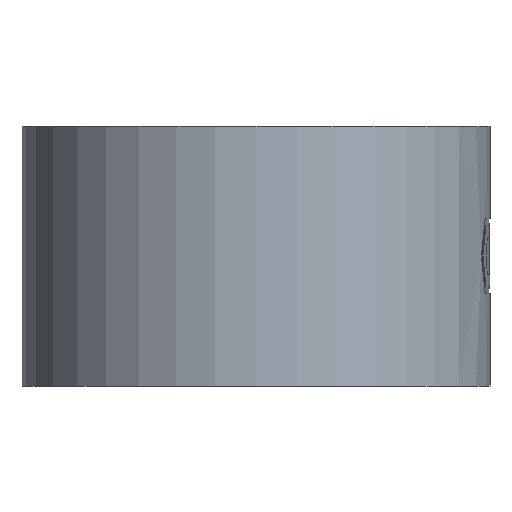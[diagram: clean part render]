
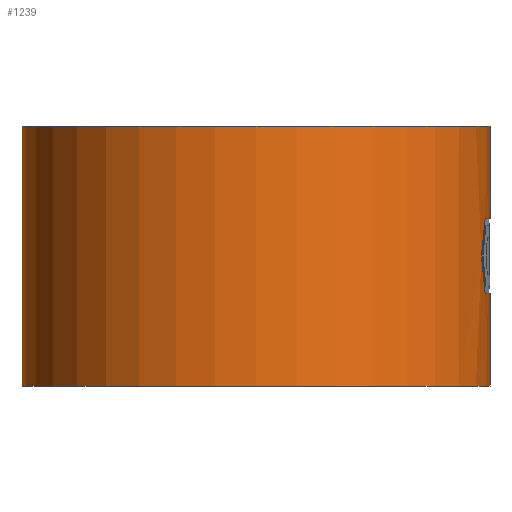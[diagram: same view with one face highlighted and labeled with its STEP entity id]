
A CAD part, front view. The second image highlights one B-rep face of the part: STEP entity #1239.
In plain terms, the highlighted cylindrical face has radius 7.65 mm (diameter 15.3 mm), a partial arc.
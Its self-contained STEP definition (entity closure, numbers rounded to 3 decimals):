
#160 = CIRCLE ( 'NONE', #347, 7.65 ) ;
#162 = DIRECTION ( 'NONE',  ( 1., 0., 0. ) ) ;
#163 = DIRECTION ( 'NONE',  ( 0., 0., 1. ) ) ;
#164 = CARTESIAN_POINT ( 'NONE',  ( 0., 0., 0. ) ) ;
#165 = AXIS2_PLACEMENT_3D ( 'NONE', #164, #163, #162 ) ;
#166 = CIRCLE ( 'NONE', #165, 7.65 ) ;
#188 = CARTESIAN_POINT ( 'NONE',  ( 7.65, 0., 5.465 ) ) ;
#189 = DIRECTION ( 'NONE',  ( 0., 0., -1. ) ) ;
#190 = VECTOR ( 'NONE', #189, 1000. ) ;
#191 = CARTESIAN_POINT ( 'NONE',  ( 7.65, 0., 8.5 ) ) ;
#192 = LINE ( 'NONE', #191, #190 ) ;
#193 = CARTESIAN_POINT ( 'NONE',  ( -7.65, 0., 8.5 ) ) ;
#194 = CARTESIAN_POINT ( 'NONE',  ( 7.65, 0., 8.5 ) ) ;
#233 = DIRECTION ( 'NONE',  ( 0., 0., -1. ) ) ;
#234 = VECTOR ( 'NONE', #233, 1000. ) ;
#235 = CARTESIAN_POINT ( 'NONE',  ( -7.65, 0., 8.5 ) ) ;
#236 = LINE ( 'NONE', #235, #234 ) ;
#237 = CARTESIAN_POINT ( 'NONE',  ( -7.65, 0., 0. ) ) ;
#243 = CARTESIAN_POINT ( 'NONE',  ( 7.65, 0., 0. ) ) ;
#244 = DIRECTION ( 'NONE',  ( 0., 0., -1. ) ) ;
#245 = VECTOR ( 'NONE', #244, 1000. ) ;
#246 = CARTESIAN_POINT ( 'NONE',  ( 7.65, 0., 8.5 ) ) ;
#247 = LINE ( 'NONE', #246, #245 ) ;
#248 = CARTESIAN_POINT ( 'NONE',  ( 7.65, 0., 3.035 ) ) ;
#334 = DIRECTION ( 'NONE',  ( 1., 0., 0. ) ) ;
#335 = DIRECTION ( 'NONE',  ( 0., 0., 1. ) ) ;
#336 = AXIS2_PLACEMENT_3D ( 'NONE', #343, #335, #334 ) ;
#337 = CIRCLE ( 'NONE', #336, 7.65 ) ;
#338 = DIRECTION ( 'NONE',  ( -1., 0., 0. ) ) ;
#339 = DIRECTION ( 'NONE',  ( 0., 0., -1. ) ) ;
#340 = CARTESIAN_POINT ( 'NONE',  ( 0., 0., 8.5 ) ) ;
#341 = AXIS2_PLACEMENT_3D ( 'NONE', #340, #339, #338 ) ;
#342 = CYLINDRICAL_SURFACE ( 'NONE', #341, 7.65 ) ;
#343 = CARTESIAN_POINT ( 'NONE',  ( 0., 0., 8.5 ) ) ;
#347 = AXIS2_PLACEMENT_3D ( 'NONE', #398, #397, #396 ) ;
#348 = CARTESIAN_POINT ( 'NONE',  ( 7.37, -2.052, 4.25 ) ) ;
#349 = B_SPLINE_CURVE_WITH_KNOTS ( 'NONE', 3,
 ( #387, #386, #385, #384 ),
 .UNSPECIFIED., .F., .F.,
 ( 4, 4 ),
 ( 0., 1. ),
 .UNSPECIFIED. ) ;
#373 = DIRECTION ( 'NONE',  ( 0., 1., 0. ) ) ;
#374 = DIRECTION ( 'NONE',  ( 0., 0., -1. ) ) ;
#375 = AXIS2_PLACEMENT_3D ( 'NONE', #383, #374, #373 ) ;
#376 = CIRCLE ( 'NONE', #375, 7.65 ) ;
#377 = CARTESIAN_POINT ( 'NONE',  ( 7.37, -2.052, 4.25 ) ) ;
#378 = CARTESIAN_POINT ( 'NONE',  ( 7.416, -1.886, 4.652 ) ) ;
#379 = CARTESIAN_POINT ( 'NONE',  ( 7.457, -1.718, 5.057 ) ) ;
#380 = CARTESIAN_POINT ( 'NONE',  ( 7.492, -1.549, 5.465 ) ) ;
#381 = CARTESIAN_POINT ( 'NONE',  ( 7.492, -1.549, 5.465 ) ) ;
#382 = B_SPLINE_CURVE_WITH_KNOTS ( 'NONE', 3,
 ( #380, #379, #378, #377 ),
 .UNSPECIFIED., .F., .F.,
 ( 4, 4 ),
 ( 0., 1. ),
 .UNSPECIFIED. ) ;
#383 = CARTESIAN_POINT ( 'NONE',  ( 0., 0., 5.465 ) ) ;
#384 = CARTESIAN_POINT ( 'NONE',  ( 7.37, -2.052, 4.25 ) ) ;
#385 = CARTESIAN_POINT ( 'NONE',  ( 7.414, -1.893, 3.867 ) ) ;
#386 = CARTESIAN_POINT ( 'NONE',  ( 7.455, -1.726, 3.462 ) ) ;
#387 = CARTESIAN_POINT ( 'NONE',  ( 7.492, -1.549, 3.035 ) ) ;
#395 = CARTESIAN_POINT ( 'NONE',  ( 7.492, -1.549, 3.035 ) ) ;
#396 = DIRECTION ( 'NONE',  ( 1., 0., 0. ) ) ;
#397 = DIRECTION ( 'NONE',  ( 0., 0., 1. ) ) ;
#398 = CARTESIAN_POINT ( 'NONE',  ( 0., 0., 3.035 ) ) ;
#428 = FACE_OUTER_BOUND ( 'NONE', #1240, .T. ) ;
#1168 = VERTEX_POINT ( 'NONE', #194 ) ;
#1169 = VERTEX_POINT ( 'NONE', #193 ) ;
#1171 = EDGE_CURVE ( 'NONE', #1168, #1172, #192, .T. ) ;
#1172 = VERTEX_POINT ( 'NONE', #188 ) ;
#1189 = VERTEX_POINT ( 'NONE', #248 ) ;
#1191 = EDGE_CURVE ( 'NONE', #1189, #1192, #247, .T. ) ;
#1192 = VERTEX_POINT ( 'NONE', #243 ) ;
#1195 = VERTEX_POINT ( 'NONE', #237 ) ;
#1197 = EDGE_CURVE ( 'NONE', #1169, #1195, #236, .T. ) ;
#1207 = ORIENTED_EDGE ( 'NONE', *, *, #1208, .T. ) ;
#1208 = EDGE_CURVE ( 'NONE', #1195, #1192, #166, .T. ) ;
#1209 = ORIENTED_EDGE ( 'NONE', *, *, #1191, .F. ) ;
#1210 = ORIENTED_EDGE ( 'NONE', *, *, #1211, .F. ) ;
#1211 = EDGE_CURVE ( 'NONE', #1212, #1189, #160, .T. ) ;
#1212 = VERTEX_POINT ( 'NONE', #395 ) ;
#1213 = ORIENTED_EDGE ( 'NONE', *, *, #1214, .T. ) ;
#1214 = EDGE_CURVE ( 'NONE', #1212, #1215, #349, .T. ) ;
#1215 = VERTEX_POINT ( 'NONE', #348 ) ;
#1216 = ORIENTED_EDGE ( 'NONE', *, *, #1217, .F. ) ;
#1217 = EDGE_CURVE ( 'NONE', #1218, #1215, #382, .T. ) ;
#1218 = VERTEX_POINT ( 'NONE', #381 ) ;
#1219 = ORIENTED_EDGE ( 'NONE', *, *, #1220, .F. ) ;
#1220 = EDGE_CURVE ( 'NONE', #1172, #1218, #376, .T. ) ;
#1239 = ADVANCED_FACE ( 'NONE', ( #428 ), #342, .T. ) ;
#1240 = EDGE_LOOP ( 'NONE', ( #1241, #1242, #1244, #1207, #1209, #1210, #1213, #1216, #1219 ) ) ;
#1241 = ORIENTED_EDGE ( 'NONE', *, *, #1171, .F. ) ;
#1242 = ORIENTED_EDGE ( 'NONE', *, *, #1243, .F. ) ;
#1243 = EDGE_CURVE ( 'NONE', #1169, #1168, #337, .T. ) ;
#1244 = ORIENTED_EDGE ( 'NONE', *, *, #1197, .T. ) ;
